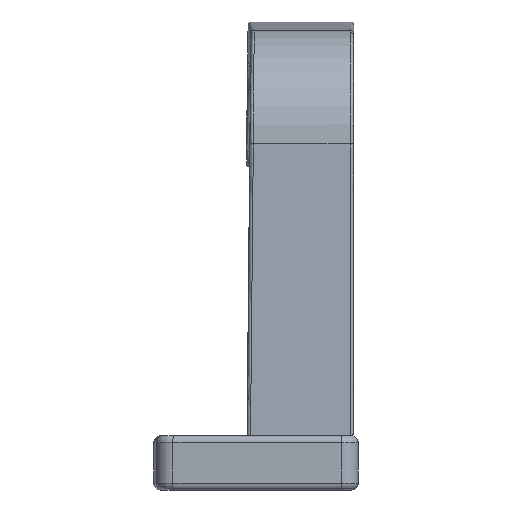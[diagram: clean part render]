
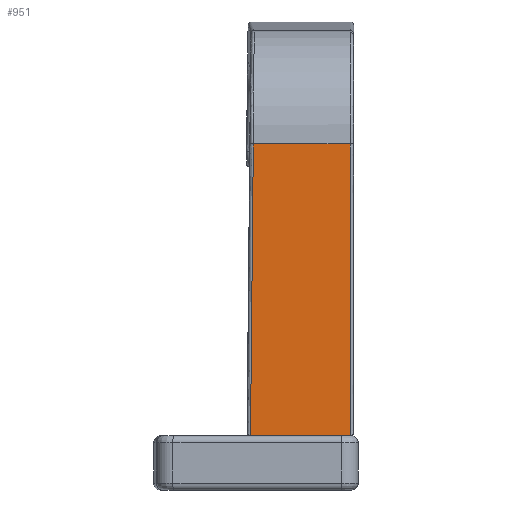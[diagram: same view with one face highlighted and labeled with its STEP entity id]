
A CAD part, left-side view. The second image highlights one B-rep face of the part: STEP entity #951.
In plain terms, the highlighted planar face has unit normal (-1, 0, -0.01).
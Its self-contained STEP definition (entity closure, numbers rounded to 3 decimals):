
#93=LINE('',#2902,#153);
#96=LINE('',#2978,#156);
#97=LINE('',#2980,#157);
#98=LINE('',#2981,#158);
#153=VECTOR('',#1218,1.);
#156=VECTOR('',#1223,1.);
#157=VECTOR('',#1226,1.);
#158=VECTOR('',#1227,1.);
#189=PLANE('',#1048);
#231=FACE_OUTER_BOUND('',#295,.T.);
#295=EDGE_LOOP('',(#767,#768,#769,#770,#771));
#339=ELLIPSE('',#1040,0.5,0.5);
#435=VERTEX_POINT('',#1811);
#438=VERTEX_POINT('',#1961);
#450=VERTEX_POINT('',#2505);
#452=VERTEX_POINT('',#2548);
#454=VERTEX_POINT('',#2875);
#557=EDGE_CURVE('',#450,#452,#339,.T.);
#565=EDGE_CURVE('',#454,#450,#93,.T.);
#568=EDGE_CURVE('',#438,#454,#96,.T.);
#569=EDGE_CURVE('',#435,#452,#97,.T.);
#570=EDGE_CURVE('',#435,#438,#98,.T.);
#767=ORIENTED_EDGE('',*,*,#568,.T.);
#768=ORIENTED_EDGE('',*,*,#565,.T.);
#769=ORIENTED_EDGE('',*,*,#557,.T.);
#770=ORIENTED_EDGE('',*,*,#569,.F.);
#771=ORIENTED_EDGE('',*,*,#570,.T.);
#951=ADVANCED_FACE('',(#231),#189,.T.);
#1040=AXIS2_PLACEMENT_3D('',#2550,#1203,#1204);
#1048=AXIS2_PLACEMENT_3D('',#2979,#1224,#1225);
#1203=DIRECTION('center_axis',(-1.,0.,
-0.01));
#1204=DIRECTION('ref_axis',(-0.01,-0.312,0.95));
#1218=DIRECTION('',(0.01,0.01,-1.));
#1223=DIRECTION('',(0.,1.,0.));
#1224=DIRECTION('center_axis',(-1.,0.,
-0.01));
#1225=DIRECTION('ref_axis',(0.01,0.,-1.));
#1226=DIRECTION('',(0.,1.,0.));
#1227=DIRECTION('',(-0.01,0.,1.));
#1811=CARTESIAN_POINT('',(-38.009,-72.537,0.));
#1961=CARTESIAN_POINT('',(-38.443,-72.537,42.993));
#2505=CARTESIAN_POINT('',(-38.009,-57.842,0.));
#2548=CARTESIAN_POINT('',(-38.009,-57.849,0.));
#2550=CARTESIAN_POINT('Origin',(-38.014,-57.849,0.5));
#2875=CARTESIAN_POINT('',(-38.443,-58.255,42.993));
#2902=CARTESIAN_POINT('',(-38.001,-57.835,-0.804));
#2978=CARTESIAN_POINT('',(-38.443,-73.037,42.993));
#2979=CARTESIAN_POINT('Origin',(-38.226,-57.754,21.497));
#2980=CARTESIAN_POINT('',(-38.009,-73.037,0.));
#2981=CARTESIAN_POINT('',(-38.,-72.537,-0.95));
